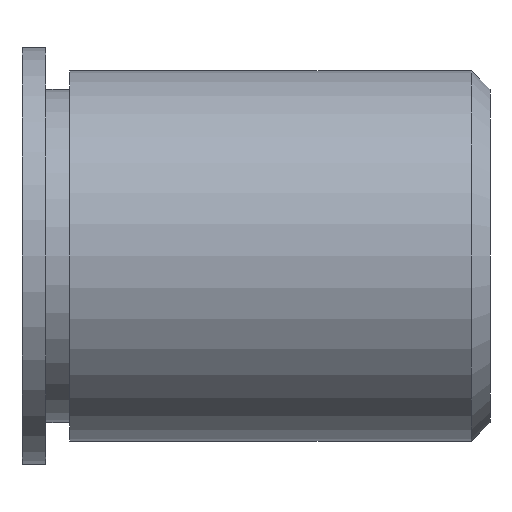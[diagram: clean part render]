
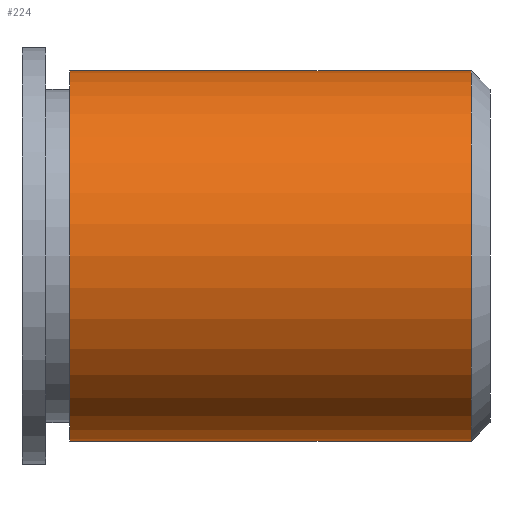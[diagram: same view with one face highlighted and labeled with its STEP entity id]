
A CAD part, front view. The second image highlights one B-rep face of the part: STEP entity #224.
In plain terms, the highlighted cylindrical face has radius 1.98 mm (diameter 3.96 mm), a partial arc.
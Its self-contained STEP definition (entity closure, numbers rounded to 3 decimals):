
#11 = ORIENTED_EDGE ( 'NONE', *, *, #107, .T. ) ;
#25 = CIRCLE ( 'NONE', #278, 1.98 ) ;
#42 = CARTESIAN_POINT ( 'NONE',  ( 69.722, 0., 0. ) ) ;
#47 = DIRECTION ( 'NONE',  ( 0., 0., 1. ) ) ;
#54 = EDGE_CURVE ( 'NONE', #340, #415, #25, .T. ) ;
#72 = AXIS2_PLACEMENT_3D ( 'NONE', #510, #481, #47 ) ;
#76 = VECTOR ( 'NONE', #419, 1000. ) ;
#85 = DIRECTION ( 'NONE',  ( 0., 0., 1. ) ) ;
#107 = EDGE_CURVE ( 'NONE', #486, #277, #405, .T. ) ;
#134 = EDGE_CURVE ( 'NONE', #277, #415, #299, .T. ) ;
#136 = EDGE_CURVE ( 'NONE', #486, #340, #285, .T. ) ;
#150 = ORIENTED_EDGE ( 'NONE', *, *, #136, .F. ) ;
#194 = DIRECTION ( 'NONE',  ( -1., 0., 0. ) ) ;
#213 = CARTESIAN_POINT ( 'NONE',  ( -67.825, 0., 1.98 ) ) ;
#218 = CYLINDRICAL_SURFACE ( 'NONE', #467, 1.98 ) ;
#224 = ADVANCED_FACE ( 'NONE', ( #439 ), #218, .T. ) ;
#247 = CARTESIAN_POINT ( 'NONE',  ( 69.722, 0., -1.98 ) ) ;
#256 = DIRECTION ( 'NONE',  ( -1., 0., 0. ) ) ;
#257 = ORIENTED_EDGE ( 'NONE', *, *, #54, .F. ) ;
#267 = CARTESIAN_POINT ( 'NONE',  ( 74.014, 0., -1.98 ) ) ;
#277 = VERTEX_POINT ( 'NONE', #320 ) ;
#278 = AXIS2_PLACEMENT_3D ( 'NONE', #42, #330, #85 ) ;
#285 = LINE ( 'NONE', #374, #386 ) ;
#299 = LINE ( 'NONE', #213, #76 ) ;
#320 = CARTESIAN_POINT ( 'NONE',  ( 74.014, 0., 1.98 ) ) ;
#330 = DIRECTION ( 'NONE',  ( -1., 0., 0. ) ) ;
#332 = EDGE_LOOP ( 'NONE', ( #150, #11, #432, #257 ) ) ;
#340 = VERTEX_POINT ( 'NONE', #247 ) ;
#346 = CARTESIAN_POINT ( 'NONE',  ( 69.722, 0., 1.98 ) ) ;
#360 = CARTESIAN_POINT ( 'NONE',  ( -67.825, 0., 0. ) ) ;
#374 = CARTESIAN_POINT ( 'NONE',  ( -67.825, 0., -1.98 ) ) ;
#386 = VECTOR ( 'NONE', #256, 1000. ) ;
#405 = CIRCLE ( 'NONE', #72, 1.98 ) ;
#415 = VERTEX_POINT ( 'NONE', #346 ) ;
#419 = DIRECTION ( 'NONE',  ( -1., 0., 0. ) ) ;
#432 = ORIENTED_EDGE ( 'NONE', *, *, #134, .T. ) ;
#439 = FACE_OUTER_BOUND ( 'NONE', #332, .T. ) ;
#467 = AXIS2_PLACEMENT_3D ( 'NONE', #360, #194, #499 ) ;
#481 = DIRECTION ( 'NONE',  ( -1., 0., 0. ) ) ;
#486 = VERTEX_POINT ( 'NONE', #267 ) ;
#499 = DIRECTION ( 'NONE',  ( 0., 0., 1. ) ) ;
#510 = CARTESIAN_POINT ( 'NONE',  ( 74.014, 0., 0. ) ) ;
